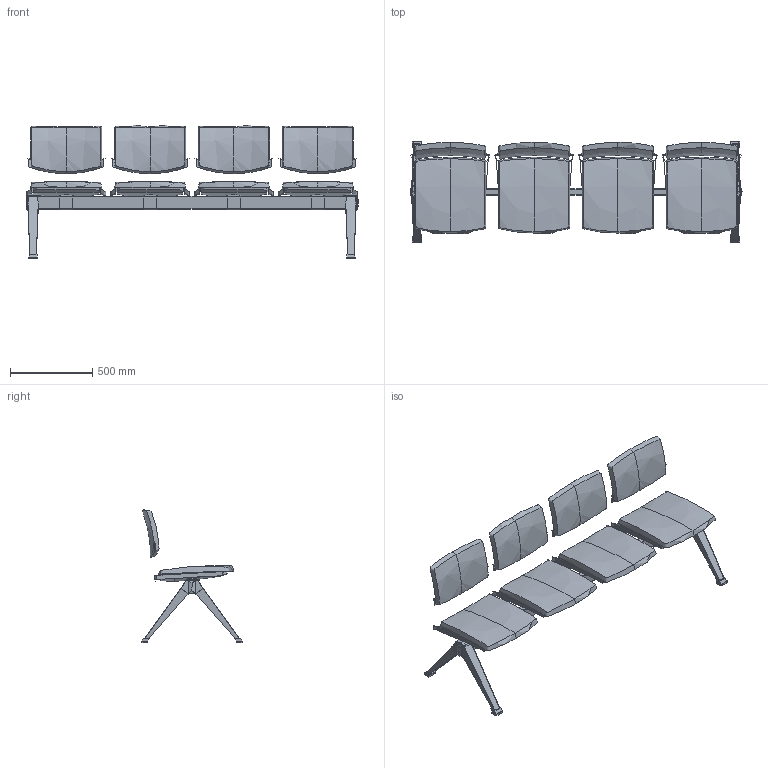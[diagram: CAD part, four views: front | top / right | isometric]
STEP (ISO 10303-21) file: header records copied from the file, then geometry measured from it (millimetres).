
FILE_DESCRIPTION(/* description */ (''),/* implementation_level */ '2;1');
FILE_NAME(/* name */ 'Seance 099-4',/* time_stamp */ '2020-03-26T13:52:57+01:00',/* author */ (''),/* organization */ (''),/* preprocessor_version */ 'ST-DEVELOPER v16.5',/* originating_system */ '',/* authorisation */ '');
FILE_SCHEMA (('AUTOMOTIVE_DESIGN'));
Length unit declared in the file: millimetre
Products named in the file (1): Document
Bounding box: 2020 x 620 x 812.42 mm (x, y, z)
Volume: 50407032 mm3; surface area: 5446931.5 mm2
Topology: 48 solids, 57 shells, 564 faces, 1330 edges, 850 vertices
Faces by surface type: bspline 292, plane 272
Entity records: 23856 total; most frequent: CARTESIAN_POINT 15141, ORIENTED_EDGE 2504, EDGE_CURVE 1300, B_SPLINE_CURVE_WITH_KNOTS 1063, VERTEX_POINT 836, ADVANCED_FACE 564, FACE_OUTER_BOUND 564, EDGE_LOOP 564
